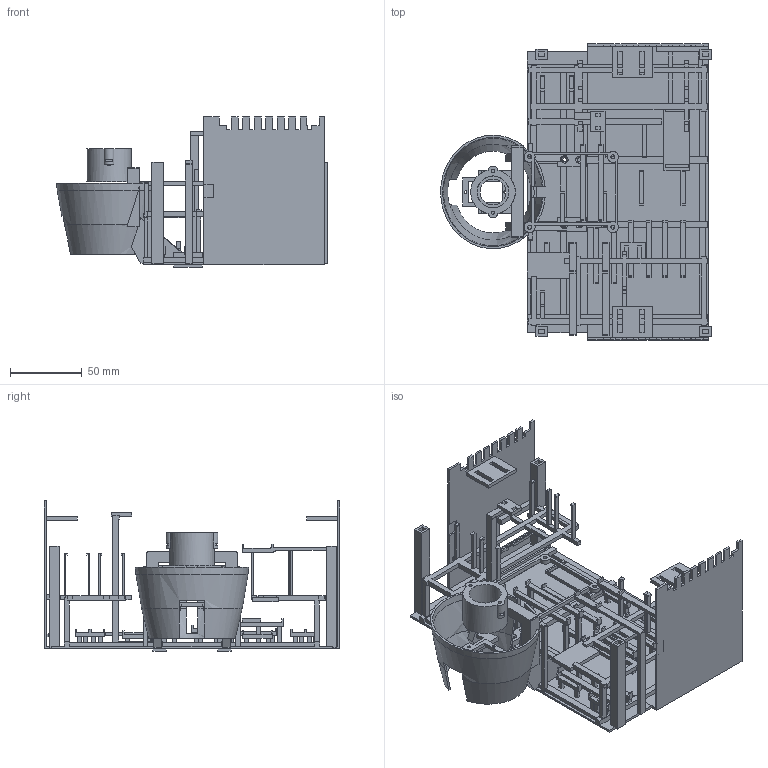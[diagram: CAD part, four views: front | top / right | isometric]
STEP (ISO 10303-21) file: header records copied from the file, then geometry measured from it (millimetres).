
FILE_DESCRIPTION(('Open CASCADE Model'),'2;1');
FILE_NAME('Open CASCADE Shape Model','2026-11-19T19:15:30',('Author'),( 'Open CASCADE'),'Open CASCADE STEP processor 8.0','Open CASCADE 8.0' ,'Unknown');
FILE_SCHEMA(('AUTOMOTIVE_DESIGN { 1 0 10303 214 1 1 1 1 }'));
Products named in the file (1): Open CASCADE STEP translator 8.0 2
Bounding box: 188.6 x 206 x 104.48 mm (x, y, z)
Volume: 173351.7 mm3; surface area: 179126.9 mm2
Topology: 1 solids, 1 shells, 1487 faces, 4393 edges, 2934 vertices
Faces by surface type: plane 1433, cylinder 35, bspline 14, cone 5
Full cylindrical faces by diameter (mm): 1.8 x2, 2.2 x6, 2.3 x2, 2.76 x4, 2.8 x5, 18 x1, 22.12 x1, 22.2 x1, 31 x1
Entity records: 105611 total; most frequent: CARTESIAN_POINT 24241, DIRECTION 12726, LINE 9304, VECTOR 9304, ORIENTED_EDGE 8786, PCURVE 8786, DEFINITIONAL_REPRESENTATION 8786, EDGE_CURVE 4393
